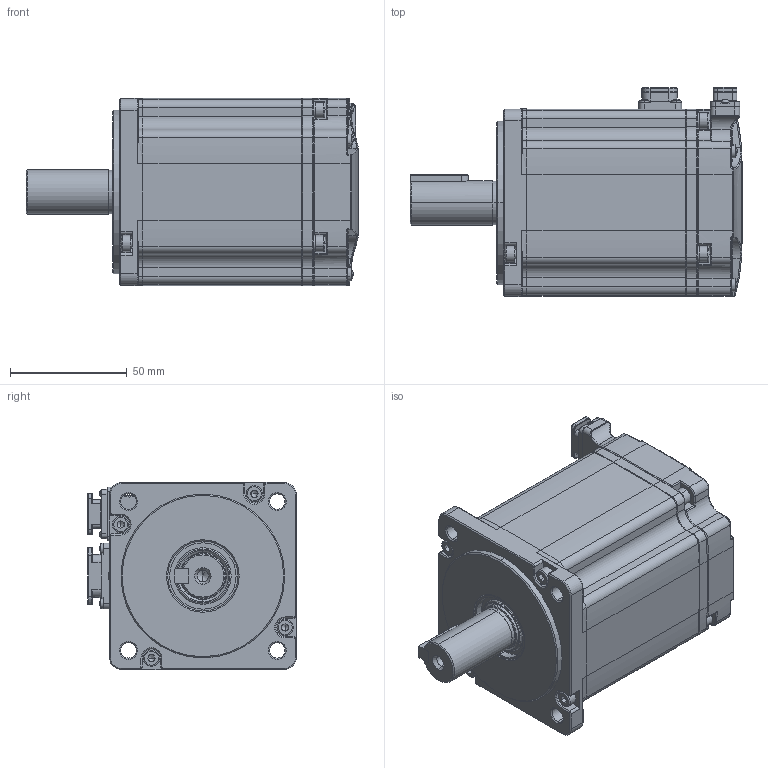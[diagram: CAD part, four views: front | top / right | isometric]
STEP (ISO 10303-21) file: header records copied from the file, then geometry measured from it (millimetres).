
FILE_DESCRIPTION (( 'STEP AP203' ), '1' );
FILE_NAME ('EM3J-08ALA223.STEP', '2022-10-27T09:22:46', ( 'USER' ), ( '' ), 'SwSTEP 2.0', 'SolidWorks 2018', '' );
FILE_SCHEMA (( 'CONFIG_CONTROL_DESIGN' ));
Products named in the file (1): EM3J-08ALA223
Bounding box: 142 x 89.3 x 80 mm (x, y, z)
Volume: 554801.9 mm3; surface area: 111744.9 mm2
Topology: 23 solids, 24 shells, 2607 faces, 6677 edges, 4171 vertices
Faces by surface type: plane 1224, cylinder 843, cone 222, torus 209, bspline 77, sphere 32
Entity records: 87047 total; most frequent: CARTESIAN_POINT 23412, DIRECTION 13499, ORIENTED_EDGE 13240, EDGE_CURVE 6620, AXIS2_PLACEMENT_3D 4842, VERTEX_POINT 4171, VECTOR 3815, LINE 3815
